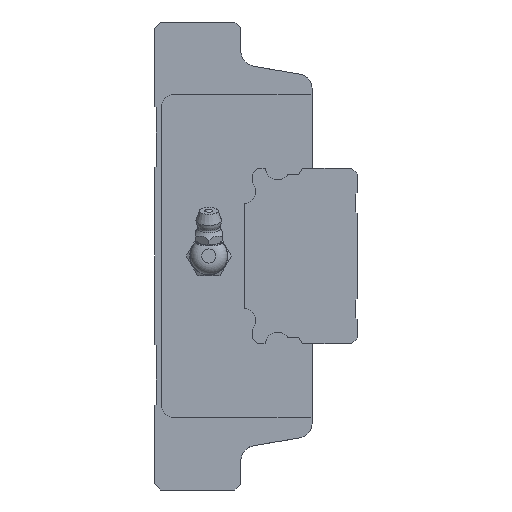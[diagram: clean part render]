
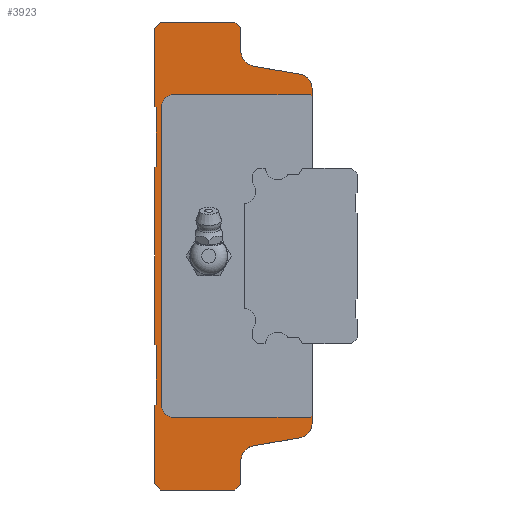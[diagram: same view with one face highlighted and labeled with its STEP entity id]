
A CAD part, left-side view. The second image highlights one B-rep face of the part: STEP entity #3923.
In plain terms, the highlighted planar face has unit normal (-1, 0, 0).
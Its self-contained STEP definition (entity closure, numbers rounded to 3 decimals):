
#180=CIRCLE('',#4214,4.);
#183=CIRCLE('',#4225,4.);
#195=CIRCLE('',#4243,4.);
#196=CIRCLE('',#4248,4.);
#247=CIRCLE('',#4327,3.);
#248=CIRCLE('',#4328,3.);
#1005=ORIENTED_EDGE('',*,*,#1884,.F.);
#1006=ORIENTED_EDGE('',*,*,#1717,.F.);
#1007=ORIENTED_EDGE('',*,*,#1712,.F.);
#1008=ORIENTED_EDGE('',*,*,#1830,.F.);
#1009=ORIENTED_EDGE('',*,*,#1705,.T.);
#1010=ORIENTED_EDGE('',*,*,#1646,.F.);
#1011=ORIENTED_EDGE('',*,*,#1643,.F.);
#1012=ORIENTED_EDGE('',*,*,#1820,.F.);
#1013=ORIENTED_EDGE('',*,*,#1811,.F.);
#1014=ORIENTED_EDGE('',*,*,#1875,.F.);
#1015=ORIENTED_EDGE('',*,*,#1872,.F.);
#1016=ORIENTED_EDGE('',*,*,#1869,.F.);
#1017=ORIENTED_EDGE('',*,*,#1866,.F.);
#1018=ORIENTED_EDGE('',*,*,#1863,.F.);
#1019=ORIENTED_EDGE('',*,*,#1860,.F.);
#1020=ORIENTED_EDGE('',*,*,#1857,.F.);
#1021=ORIENTED_EDGE('',*,*,#1854,.F.);
#1022=ORIENTED_EDGE('',*,*,#1851,.F.);
#1023=ORIENTED_EDGE('',*,*,#1848,.F.);
#1024=ORIENTED_EDGE('',*,*,#1844,.F.);
#1025=ORIENTED_EDGE('',*,*,#1632,.F.);
#1026=ORIENTED_EDGE('',*,*,#1629,.F.);
#1027=ORIENTED_EDGE('',*,*,#1687,.T.);
#1028=ORIENTED_EDGE('',*,*,#1681,.F.);
#1029=ORIENTED_EDGE('',*,*,#1670,.F.);
#1030=ORIENTED_EDGE('',*,*,#1731,.F.);
#1031=ORIENTED_EDGE('',*,*,#1885,.F.);
#1032=ORIENTED_EDGE('',*,*,#1886,.F.);
#1033=ORIENTED_EDGE('',*,*,#1887,.F.);
#1034=ORIENTED_EDGE('',*,*,#1888,.F.);
#1035=ORIENTED_EDGE('',*,*,#1889,.F.);
#1036=ORIENTED_EDGE('',*,*,#1890,.F.);
#1629=EDGE_CURVE('',#2141,#2139,#2516,.T.);
#1632=EDGE_CURVE('',#2139,#2143,#2519,.T.);
#1643=EDGE_CURVE('',#2153,#2151,#2530,.T.);
#1646=EDGE_CURVE('',#2151,#2155,#2533,.T.);
#1670=EDGE_CURVE('',#2176,#2174,#180,.T.);
#1681=EDGE_CURVE('',#2174,#2186,#2549,.T.);
#1687=EDGE_CURVE('',#2141,#2186,#183,.T.);
#1705=EDGE_CURVE('',#2205,#2155,#195,.T.);
#1712=EDGE_CURVE('',#2209,#2207,#196,.T.);
#1717=EDGE_CURVE('',#2207,#2212,#2556,.T.);
#1731=EDGE_CURVE('',#2223,#2176,#2569,.T.);
#1811=EDGE_CURVE('',#2298,#2299,#2606,.T.);
#1820=EDGE_CURVE('',#2299,#2153,#2615,.T.);
#1830=EDGE_CURVE('',#2205,#2209,#2624,.T.);
#1844=EDGE_CURVE('',#2143,#2318,#2637,.T.);
#1848=EDGE_CURVE('',#2318,#2320,#2641,.T.);
#1851=EDGE_CURVE('',#2320,#2322,#2644,.T.);
#1854=EDGE_CURVE('',#2322,#2324,#2647,.T.);
#1857=EDGE_CURVE('',#2324,#2326,#2650,.T.);
#1860=EDGE_CURVE('',#2326,#2328,#2653,.T.);
#1863=EDGE_CURVE('',#2328,#2330,#2656,.T.);
#1866=EDGE_CURVE('',#2330,#2332,#2659,.T.);
#1869=EDGE_CURVE('',#2332,#2334,#2662,.T.);
#1872=EDGE_CURVE('',#2334,#2336,#2665,.T.);
#1875=EDGE_CURVE('',#2336,#2298,#2668,.T.);
#1884=EDGE_CURVE('',#2212,#2344,#2675,.T.);
#1885=EDGE_CURVE('',#2345,#2223,#2676,.T.);
#1886=EDGE_CURVE('',#2346,#2345,#2677,.T.);
#1887=EDGE_CURVE('',#2347,#2346,#247,.F.);
#1888=EDGE_CURVE('',#2348,#2347,#2678,.T.);
#1889=EDGE_CURVE('',#2349,#2348,#248,.F.);
#1890=EDGE_CURVE('',#2344,#2349,#2679,.T.);
#2139=VERTEX_POINT('',#5965);
#2141=VERTEX_POINT('',#5969);
#2143=VERTEX_POINT('',#5974);
#2151=VERTEX_POINT('',#5995);
#2153=VERTEX_POINT('',#5999);
#2155=VERTEX_POINT('',#6004);
#2174=VERTEX_POINT('',#6079);
#2176=VERTEX_POINT('',#6089);
#2186=VERTEX_POINT('',#6130);
#2205=VERTEX_POINT('',#6198);
#2207=VERTEX_POINT('',#6206);
#2209=VERTEX_POINT('',#6216);
#2212=VERTEX_POINT('',#6227);
#2223=VERTEX_POINT('',#6252);
#2298=VERTEX_POINT('',#6411);
#2299=VERTEX_POINT('',#6412);
#2318=VERTEX_POINT('',#6472);
#2320=VERTEX_POINT('',#6479);
#2322=VERTEX_POINT('',#6485);
#2324=VERTEX_POINT('',#6491);
#2326=VERTEX_POINT('',#6497);
#2328=VERTEX_POINT('',#6503);
#2330=VERTEX_POINT('',#6509);
#2332=VERTEX_POINT('',#6515);
#2334=VERTEX_POINT('',#6521);
#2336=VERTEX_POINT('',#6527);
#2344=VERTEX_POINT('',#6550);
#2345=VERTEX_POINT('',#6552);
#2346=VERTEX_POINT('',#6554);
#2347=VERTEX_POINT('',#6556);
#2348=VERTEX_POINT('',#6558);
#2349=VERTEX_POINT('',#6560);
#2516=LINE('',#5970,#2850);
#2519=LINE('',#5976,#2853);
#2530=LINE('',#6000,#2864);
#2533=LINE('',#6006,#2867);
#2549=LINE('',#6132,#2883);
#2556=LINE('',#6226,#2890);
#2569=LINE('',#6253,#2903);
#2606=LINE('',#6410,#2940);
#2615=LINE('',#6428,#2949);
#2624=LINE('',#6445,#2958);
#2637=LINE('',#6471,#2971);
#2641=LINE('',#6478,#2975);
#2644=LINE('',#6484,#2978);
#2647=LINE('',#6490,#2981);
#2650=LINE('',#6496,#2984);
#2653=LINE('',#6502,#2987);
#2656=LINE('',#6508,#2990);
#2659=LINE('',#6514,#2993);
#2662=LINE('',#6520,#2996);
#2665=LINE('',#6526,#2999);
#2668=LINE('',#6532,#3002);
#2675=LINE('',#6549,#3009);
#2676=LINE('',#6551,#3010);
#2677=LINE('',#6553,#3011);
#2678=LINE('',#6557,#3012);
#2679=LINE('',#6561,#3013);
#2850=VECTOR('',#4831,1000.);
#2853=VECTOR('',#4836,1000.);
#2864=VECTOR('',#4853,1000.);
#2867=VECTOR('',#4858,1000.);
#2883=VECTOR('',#4910,1000.);
#2890=VECTOR('',#4987,1000.);
#2903=VECTOR('',#5004,1000.);
#2940=VECTOR('',#5133,1000.);
#2949=VECTOR('',#5144,1000.);
#2958=VECTOR('',#5161,1000.);
#2971=VECTOR('',#5184,1000.);
#2975=VECTOR('',#5190,1000.);
#2978=VECTOR('',#5195,1000.);
#2981=VECTOR('',#5200,1000.);
#2984=VECTOR('',#5205,1000.);
#2987=VECTOR('',#5210,1000.);
#2990=VECTOR('',#5215,1000.);
#2993=VECTOR('',#5220,1000.);
#2996=VECTOR('',#5225,1000.);
#2999=VECTOR('',#5230,1000.);
#3002=VECTOR('',#5235,1000.);
#3009=VECTOR('',#5250,1000.);
#3010=VECTOR('',#5251,1000.);
#3011=VECTOR('',#5252,1000.);
#3012=VECTOR('',#5255,1000.);
#3013=VECTOR('',#5258,1000.);
#3238=EDGE_LOOP('',(#1005,#1006,#1007,#1008,#1009,#1010,#1011,#1012,#1013,
#1014,#1015,#1016,#1017,#1018,#1019,#1020,#1021,#1022,#1023,#1024,#1025,
#1026,#1027,#1028,#1029,#1030,#1031,#1032,#1033,#1034,#1035,#1036));
#3537=FACE_BOUND('',#3238,.T.);
#3752=PLANE('',#4326);
#3923=ADVANCED_FACE('',(#3537),#3752,.F.);
#4214=AXIS2_PLACEMENT_3D('',#6090,#4893,#4894);
#4225=AXIS2_PLACEMENT_3D('',#6146,#4922,#4923);
#4243=AXIS2_PLACEMENT_3D('',#6197,#4960,#4961);
#4248=AXIS2_PLACEMENT_3D('',#6217,#4973,#4974);
#4326=AXIS2_PLACEMENT_3D('',#6548,#5248,#5249);
#4327=AXIS2_PLACEMENT_3D('',#6555,#5253,#5254);
#4328=AXIS2_PLACEMENT_3D('',#6559,#5256,#5257);
#4831=DIRECTION('',(0.,0.,-1.));
#4836=DIRECTION('',(0.,0.707,-0.707));
#4853=DIRECTION('',(0.,-0.707,-0.707));
#4858=DIRECTION('',(0.,0.,-1.));
#4893=DIRECTION('',(1.,0.,0.));
#4894=DIRECTION('',(0.,0.,-1.));
#4910=DIRECTION('',(0.,0.985,-0.17));
#4922=DIRECTION('',(1.,0.,0.));
#4923=DIRECTION('',(0.,0.,-1.));
#4960=DIRECTION('',(1.,0.,0.));
#4961=DIRECTION('',(0.,0.,-1.));
#4973=DIRECTION('',(1.,0.,0.));
#4974=DIRECTION('',(0.,0.,-1.));
#4987=DIRECTION('',(0.,0.,-1.));
#5004=DIRECTION('',(0.,0.,-1.));
#5133=DIRECTION('',(0.,-0.707,0.707));
#5144=DIRECTION('',(0.,-1.,0.));
#5161=DIRECTION('',(0.,-0.985,-0.17));
#5184=DIRECTION('',(0.,1.,0.));
#5190=DIRECTION('',(0.,0.707,0.707));
#5195=DIRECTION('',(0.,0.,1.));
#5200=DIRECTION('',(0.,-0.717,0.697));
#5205=DIRECTION('',(0.,0.,1.));
#5210=DIRECTION('',(0.,0.717,0.697));
#5215=DIRECTION('',(0.,0.,1.));
#5220=DIRECTION('',(0.,-0.717,0.697));
#5225=DIRECTION('',(0.,0.,1.));
#5230=DIRECTION('',(0.,0.717,0.697));
#5235=DIRECTION('',(0.,0.,1.));
#5248=DIRECTION('',(1.,0.,0.));
#5249=DIRECTION('',(0.,0.,-1.));
#5250=DIRECTION('',(0.,0.707,0.707));
#5251=DIRECTION('',(0.,-0.707,0.707));
#5252=DIRECTION('',(0.,-1.,0.));
#5253=DIRECTION('',(1.,0.,0.));
#5254=DIRECTION('',(0.,0.,-1.));
#5255=DIRECTION('',(0.,0.,-1.));
#5256=DIRECTION('',(1.,0.,0.));
#5257=DIRECTION('',(0.,0.,-1.));
#5258=DIRECTION('',(0.,1.,0.));
#5965=CARTESIAN_POINT('',(-52.5,18.3,-58.5));
#5969=CARTESIAN_POINT('',(-52.5,18.3,-52.6));
#5970=CARTESIAN_POINT('',(-52.5,18.3,-52.6));
#5974=CARTESIAN_POINT('',(-52.5,19.8,-60.));
#5976=CARTESIAN_POINT('',(-52.5,18.3,-58.5));
#5995=CARTESIAN_POINT('',(-52.5,18.3,58.5));
#5999=CARTESIAN_POINT('',(-52.5,19.8,60.));
#6000=CARTESIAN_POINT('',(-52.5,19.8,60.));
#6004=CARTESIAN_POINT('',(-52.5,18.3,52.6));
#6006=CARTESIAN_POINT('',(-52.5,18.3,58.5));
#6079=CARTESIAN_POINT('',(-52.5,3.318,-46.641));
#6089=CARTESIAN_POINT('',(-52.5,0.,-42.7));
#6090=CARTESIAN_POINT('',(-52.5,4.,-42.7));
#6130=CARTESIAN_POINT('',(-52.5,14.982,-48.659));
#6132=CARTESIAN_POINT('',(-52.5,3.318,-46.641));
#6146=CARTESIAN_POINT('',(-52.5,14.3,-52.6));
#6197=CARTESIAN_POINT('',(-52.5,14.3,52.6));
#6198=CARTESIAN_POINT('',(-52.5,14.982,48.659));
#6206=CARTESIAN_POINT('',(-52.5,0.,42.7));
#6216=CARTESIAN_POINT('',(-52.5,3.318,46.641));
#6217=CARTESIAN_POINT('',(-52.5,4.,42.7));
#6226=CARTESIAN_POINT('',(-52.5,0.,42.7));
#6227=CARTESIAN_POINT('',(-52.5,0.,40.9));
#6252=CARTESIAN_POINT('',(-52.5,0.,-40.9));
#6253=CARTESIAN_POINT('',(-52.5,0.,42.7));
#6410=CARTESIAN_POINT('',(-52.5,40.4,58.4));
#6411=CARTESIAN_POINT('',(-52.5,40.4,58.4));
#6412=CARTESIAN_POINT('',(-52.5,38.8,60.));
#6428=CARTESIAN_POINT('',(-52.5,38.8,60.));
#6445=CARTESIAN_POINT('',(-52.5,14.982,48.659));
#6471=CARTESIAN_POINT('',(-52.5,19.8,-60.));
#6472=CARTESIAN_POINT('',(-52.5,38.8,-60.));
#6478=CARTESIAN_POINT('',(-52.5,38.8,-60.));
#6479=CARTESIAN_POINT('',(-52.5,40.4,-58.4));
#6484=CARTESIAN_POINT('',(-52.5,40.4,-58.4));
#6485=CARTESIAN_POINT('',(-52.5,40.4,-38.4));
#6490=CARTESIAN_POINT('',(-52.5,40.4,-38.4));
#6491=CARTESIAN_POINT('',(-52.5,40.,-38.011));
#6496=CARTESIAN_POINT('',(-52.5,40.,-38.011));
#6497=CARTESIAN_POINT('',(-52.5,40.,-22.989));
#6502=CARTESIAN_POINT('',(-52.5,40.,-22.989));
#6503=CARTESIAN_POINT('',(-52.5,40.4,-22.6));
#6508=CARTESIAN_POINT('',(-52.5,40.4,-22.6));
#6509=CARTESIAN_POINT('',(-52.5,40.4,22.6));
#6514=CARTESIAN_POINT('',(-52.5,40.4,22.6));
#6515=CARTESIAN_POINT('',(-52.5,40.,22.989));
#6520=CARTESIAN_POINT('',(-52.5,40.,22.989));
#6521=CARTESIAN_POINT('',(-52.5,40.,38.011));
#6526=CARTESIAN_POINT('',(-52.5,40.,38.011));
#6527=CARTESIAN_POINT('',(-52.5,40.4,38.4));
#6532=CARTESIAN_POINT('',(-52.5,40.4,38.4));
#6548=CARTESIAN_POINT('',(-52.5,14.3,52.6));
#6549=CARTESIAN_POINT('',(-52.5,13.,53.9));
#6550=CARTESIAN_POINT('',(-52.5,0.5,41.4));
#6551=CARTESIAN_POINT('',(-52.5,-39.6,-1.3));
#6552=CARTESIAN_POINT('',(-52.5,0.5,-41.4));
#6553=CARTESIAN_POINT('',(-52.5,14.3,-41.4));
#6554=CARTESIAN_POINT('',(-52.5,35.6,-41.4));
#6555=CARTESIAN_POINT('',(-52.5,35.6,-38.4));
#6556=CARTESIAN_POINT('',(-52.5,38.6,-38.4));
#6557=CARTESIAN_POINT('',(-52.5,38.6,52.6));
#6558=CARTESIAN_POINT('',(-52.5,38.6,38.4));
#6559=CARTESIAN_POINT('',(-52.5,35.6,38.4));
#6560=CARTESIAN_POINT('',(-52.5,35.6,41.4));
#6561=CARTESIAN_POINT('',(-52.5,14.3,41.4));
